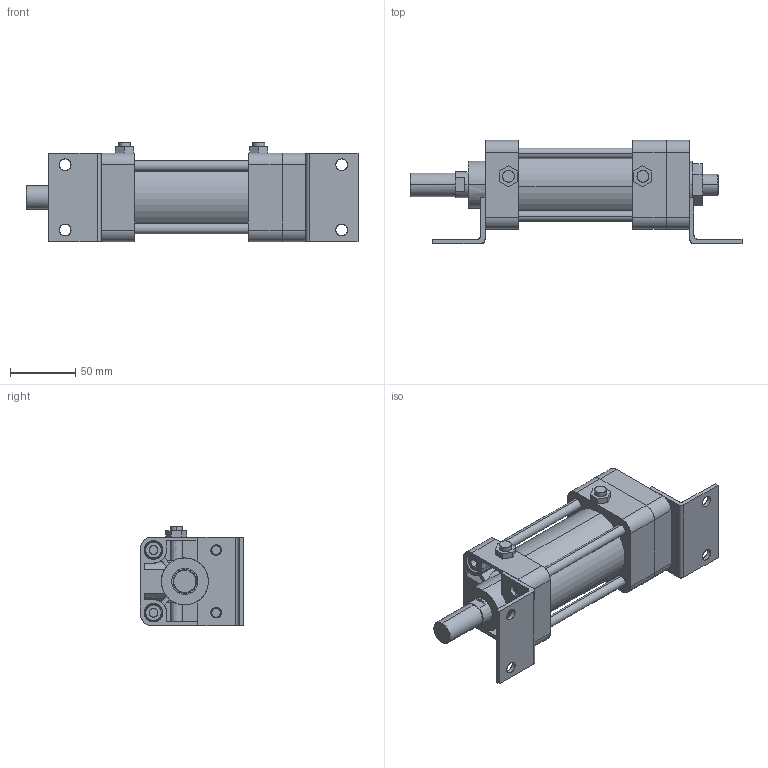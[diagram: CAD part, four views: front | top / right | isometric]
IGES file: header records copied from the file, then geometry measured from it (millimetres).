
Start section: SolidWorks IGES file using analytic representation for surfaces
Global section: file name: C:\Users\Toshiba\Desktop\KGA2-50#-50-L.IGS; native system: SolidWorks 2014; preprocessor: SolidWorks 2014; author: Toshiba; date: 160414.152020; units: millimetre
Bounding box: 254.5 x 79 x 76.3 mm (x, y, z)
Surface area: 136190.8 mm2 (no closed solid volume)
Topology: 0 solids, 0 shells, 404 faces, 6574 edges, 6570 vertices
Faces by surface type: bspline 212, revolution 192
